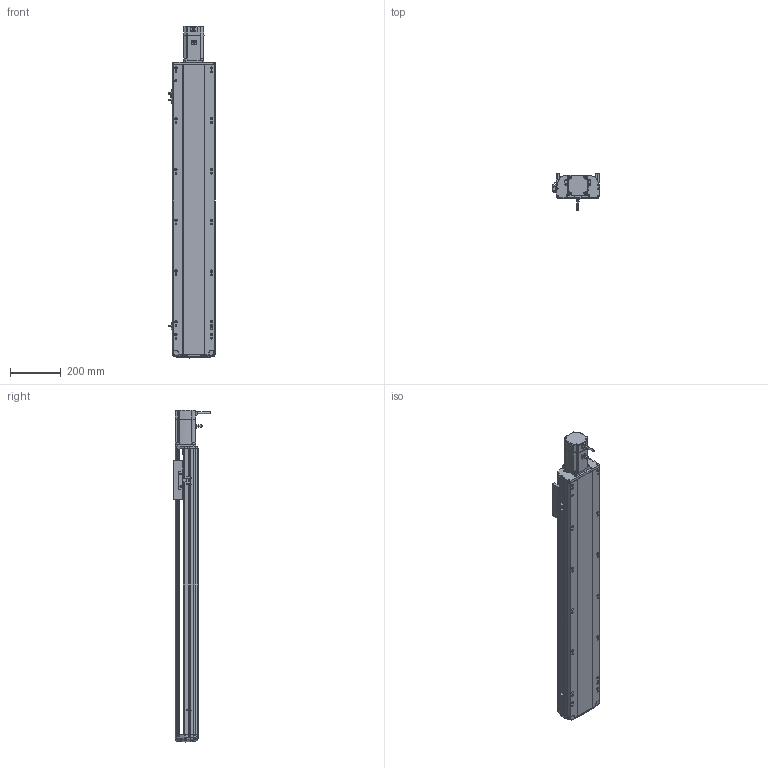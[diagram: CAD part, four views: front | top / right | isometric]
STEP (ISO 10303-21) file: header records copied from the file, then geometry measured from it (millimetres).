
FILE_DESCRIPTION (( 'STEP AP214' ), '1' );
FILE_NAME ('RTH17-XX-900-E-M75-C4.STEP', '2025-10-24T09:39:56', ( '' ), ( '' ), 'SwSTEP 2.0', 'SolidWorks 2018', '' );
FILE_SCHEMA (( 'AUTOMOTIVE_DESIGN' ));
Length unit declared in the file: millimetre
Products named in the file (9): RTH17-XX-900-E-M75-C4; N_M75^RTH17-XX-XX-E-M75-C4（方程式）; N_RTH17-E-004丝杆螺母连接座^RTH17-XX-XX-E-M75-C4（方程式）; N_OMRON EE-SX672 換覜ん^RTH17-XX-XX-E-M75-C4ㄗ源最宒ㄘ; N_RTH17-E-008-P75电机板^RTH17-XX-XX-E-M75-C4（方程式）; N_RTH-L-012 感应片(外置)^RTH17-XX-XX-E-M75-C4（方程式）; N_RTH17-GY-001P^RTH17-XX-XX-E-M75-C4（方程式）; N_RTH17-E-007上盖^RTH17-XX-XX-E-M75-C4（方程式）; N_RTH17-E-011底座^RTH17-XX-XX-E-M75-C4（方程式）
Assembly tree (10 placements, depth 2):
  RTH17-XX-900-E-M75-C4
    N_RTH17-E-011底座^RTH17-XX-XX-E-M75-C4（方程式）
    N_RTH17-E-007上盖^RTH17-XX-XX-E-M75-C4（方程式）
    N_M75^RTH17-XX-XX-E-M75-C4（方程式）
    N_RTH17-E-008-P75电机板^RTH17-XX-XX-E-M75-C4（方程式）
    N_OMRON EE-SX672 換覜ん^RTH17-XX-XX-E-M75-C4ㄗ源最宒ㄘ  x3
    N_RTH-L-012 感应片(外置)^RTH17-XX-XX-E-M75-C4（方程式）
    N_RTH17-E-004丝杆螺母连接座^RTH17-XX-XX-E-M75-C4（方程式）
    N_RTH17-GY-001P^RTH17-XX-XX-E-M75-C4（方程式）
Bounding box: 183.5 x 145.7 x 1308.19 mm (x, y, z)
Volume: 9555406.3 mm3; surface area: 1249428.7 mm2
Topology: 9 solids, 11 shells, 1796 faces, 4983 edges, 3230 vertices
Faces by surface type: plane 826, cylinder 556, bspline 377, cone 28, torus 9
Entity records: 53302 total; most frequent: CARTESIAN_POINT 20917, ORIENTED_EDGE 6990, DIRECTION 5867, EDGE_CURVE 3499, VERTEX_POINT 2266, AXIS2_PLACEMENT_3D 2003, LINE 1861, VECTOR 1861
